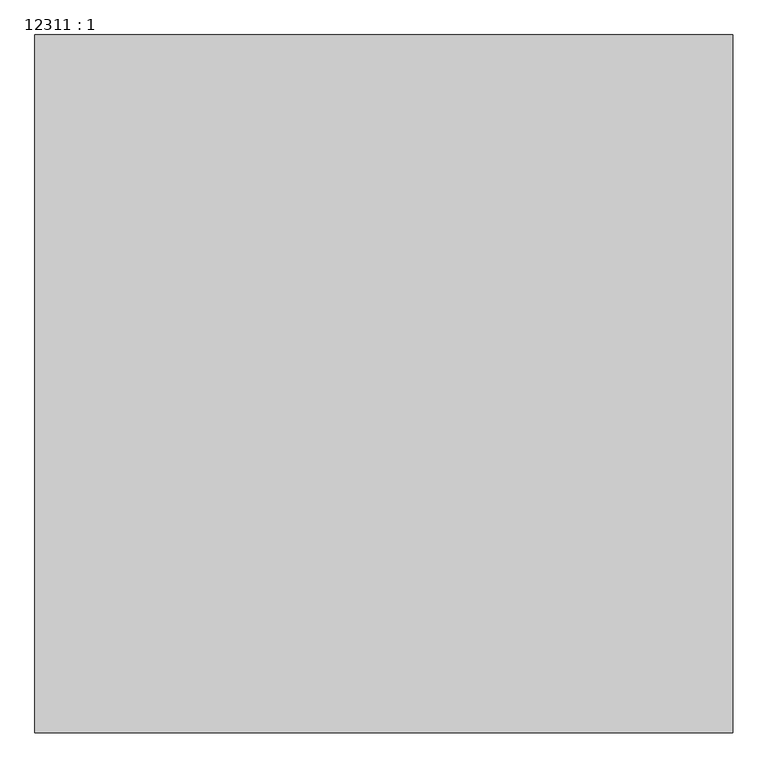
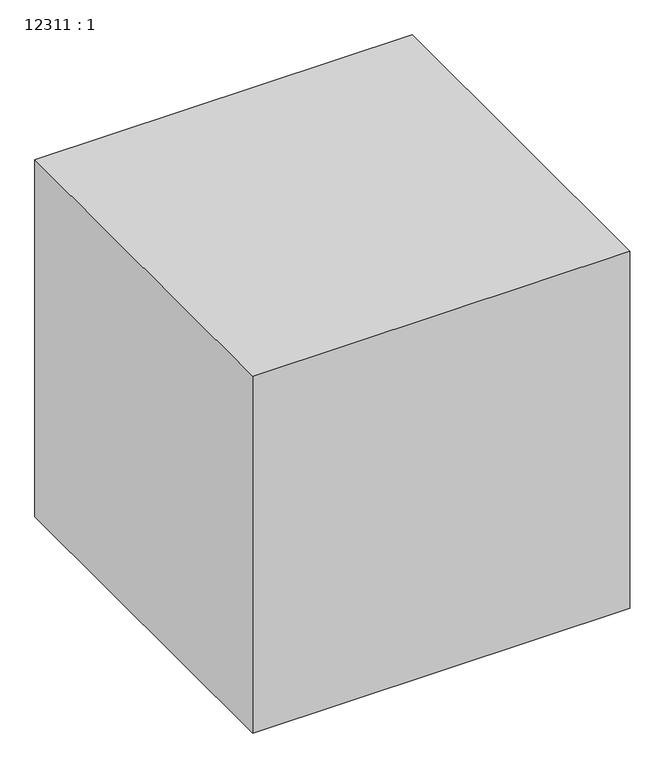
"""IFC4 building model written with IfcOpenShell, lengths in millimetres: proxy geometry, 12311 : 1."""

from ifc_helpers import new_model, si_unit, origin, origin_with_axes, place, context, project, spatial, polyline, outline, extrude, source, transform, mapped, element, save


def proxy_12311_1_553b1de8(model_context):
    return source(origin(), model_context, "Body", "SweptSolid", [
        extrude(outline(polyline([(-26307.9756708, -664.7705528), (-26307.9756708, -1664.7705528), (-27307.9756708, -1664.7705528), (-27307.9756708, -664.7705528), (-26307.9756708, -664.7705528)])), origin_with_axes(), (0.0, 0.0, 1.0), 1000.0),
    ])


if __name__ == "__main__":
    model = new_model("IFC4")
    model_context = context("Model", 3, world=origin())
    ifc_project = project(units=[si_unit("LENGTHUNIT", "METRE", prefix="MILLI")], contexts=[model_context])
    site = spatial("IfcSite", under=ifc_project)
    building = spatial("IfcBuilding", under=site)
    placement = place(None, origin())
    proxy_12311_1_shape = proxy_12311_1_553b1de8(model_context)
    element("IfcBuildingElementProxy", 1, Name="12311 : 1", ObjectType="12311 : 1", at=placement, inside=building, context=model_context, shape_type="MappedRepresentation", body=[
        mapped(proxy_12311_1_shape, transform((0.0, 0.0, 0.0), x_axis=(1.0, 0.0, 0.0), y_axis=(0.0, 1.0, 0.0), z_axis=(0.0, 0.0, 1.0))),
    ])
    save(model, "model.ifc")
